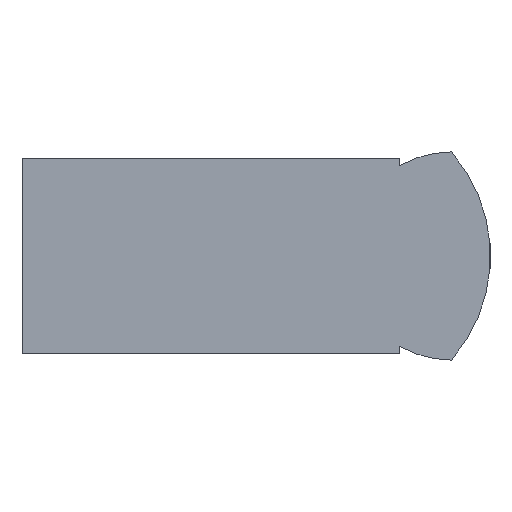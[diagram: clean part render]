
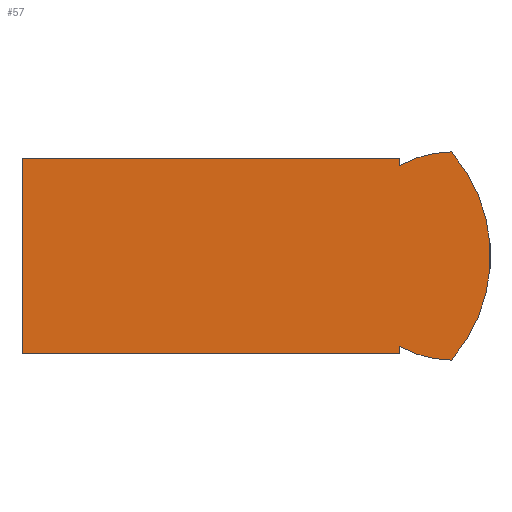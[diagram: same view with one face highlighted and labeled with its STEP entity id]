
A CAD part, left-side view. The second image highlights one B-rep face of the part: STEP entity #57.
In plain terms, the highlighted planar face has unit normal (-1, 0, 0).
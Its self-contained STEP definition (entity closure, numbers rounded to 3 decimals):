
#57 = ADVANCED_FACE( '', ( #123 ), #124, .F. );
#123 = FACE_OUTER_BOUND( '', #198, .T. );
#124 = PLANE( '', #199 );
#198 = EDGE_LOOP( '', ( #294, #295, #296, #297, #298, #299, #300, #301 ) );
#199 = AXIS2_PLACEMENT_3D( '', #302, #303, #304 );
#294 = ORIENTED_EDGE( '', *, *, #450, .F. );
#295 = ORIENTED_EDGE( '', *, *, #451, .T. );
#296 = ORIENTED_EDGE( '', *, *, #452, .T. );
#297 = ORIENTED_EDGE( '', *, *, #453, .F. );
#298 = ORIENTED_EDGE( '', *, *, #454, .F. );
#299 = ORIENTED_EDGE( '', *, *, #431, .T. );
#300 = ORIENTED_EDGE( '', *, *, #455, .F. );
#301 = ORIENTED_EDGE( '', *, *, #456, .F. );
#302 = CARTESIAN_POINT( '', ( -6., -28.416, 0. ) );
#303 = DIRECTION( '', ( 1., 0., 0. ) );
#304 = DIRECTION( '', ( 0., 0., -1. ) );
#431 = EDGE_CURVE( '', #505, #503, #506, .T. );
#450 = EDGE_CURVE( '', #535, #536, #537, .T. );
#451 = EDGE_CURVE( '', #535, #538, #539, .T. );
#452 = EDGE_CURVE( '', #538, #540, #541, .T. );
#453 = EDGE_CURVE( '', #542, #540, #543, .T. );
#454 = EDGE_CURVE( '', #505, #542, #544, .T. );
#455 = EDGE_CURVE( '', #545, #503, #546, .T. );
#456 = EDGE_CURVE( '', #536, #545, #547, .T. );
#503 = VERTEX_POINT( '', #607 );
#505 = VERTEX_POINT( '', #610 );
#506 = LINE( '', #611, #612 );
#535 = VERTEX_POINT( '', #649 );
#536 = VERTEX_POINT( '', #650 );
#537 = CIRCLE( '', #651, 8. );
#538 = VERTEX_POINT( '', #652 );
#539 = LINE( '', #653, #654 );
#540 = VERTEX_POINT( '', #655 );
#541 = LINE( '', #656, #657 );
#542 = VERTEX_POINT( '', #658 );
#543 = LINE( '', #659, #660 );
#544 = LINE( '', #661, #662 );
#545 = VERTEX_POINT( '', #663 );
#546 = CIRCLE( '', #664, 8. );
#547 = CIRCLE( '', #665, 12.167 );
#607 = CARTESIAN_POINT( '', ( -6., -29., -6.928 ) );
#610 = CARTESIAN_POINT( '', ( -6., -29., -7.5 ) );
#611 = CARTESIAN_POINT( '', ( -6., -29., -7.5 ) );
#612 = VECTOR( '', #728, 1000. );
#649 = CARTESIAN_POINT( '', ( -6., -29., 6.928 ) );
#650 = CARTESIAN_POINT( '', ( -6., -33., 8. ) );
#651 = AXIS2_PLACEMENT_3D( '', #752, #753, #754 );
#652 = CARTESIAN_POINT( '', ( -6., -29., 7.5 ) );
#653 = CARTESIAN_POINT( '', ( -6., -29., -7.5 ) );
#654 = VECTOR( '', #755, 1000. );
#655 = CARTESIAN_POINT( '', ( -6., 0., 7.5 ) );
#656 = CARTESIAN_POINT( '', ( -6., -29., 7.5 ) );
#657 = VECTOR( '', #756, 1000. );
#658 = CARTESIAN_POINT( '', ( -6., 0., -7.5 ) );
#659 = CARTESIAN_POINT( '', ( -6., 0., -7.5 ) );
#660 = VECTOR( '', #757, 1000. );
#661 = CARTESIAN_POINT( '', ( -6., -29., -7.5 ) );
#662 = VECTOR( '', #758, 1000. );
#663 = CARTESIAN_POINT( '', ( -6., -33., -8. ) );
#664 = AXIS2_PLACEMENT_3D( '', #759, #760, #761 );
#665 = AXIS2_PLACEMENT_3D( '', #762, #763, #764 );
#728 = DIRECTION( '', ( 0., 0., 1. ) );
#752 = CARTESIAN_POINT( '', ( -6., -33., 0. ) );
#753 = DIRECTION( '', ( 1., 0., 0. ) );
#754 = DIRECTION( '', ( 0., 0., -1. ) );
#755 = DIRECTION( '', ( 0., 0., 1. ) );
#756 = DIRECTION( '', ( 0., 1., 0. ) );
#757 = DIRECTION( '', ( 0., 0., 1. ) );
#758 = DIRECTION( '', ( 0., 1., 0. ) );
#759 = CARTESIAN_POINT( '', ( -6., -33., 0. ) );
#760 = DIRECTION( '', ( 1., 0., 0. ) );
#761 = DIRECTION( '', ( 0., 0., -1. ) );
#762 = CARTESIAN_POINT( '', ( -6., -23.833, 0. ) );
#763 = DIRECTION( '', ( 1., 0., 0. ) );
#764 = DIRECTION( '', ( 0., 0., -1. ) );
